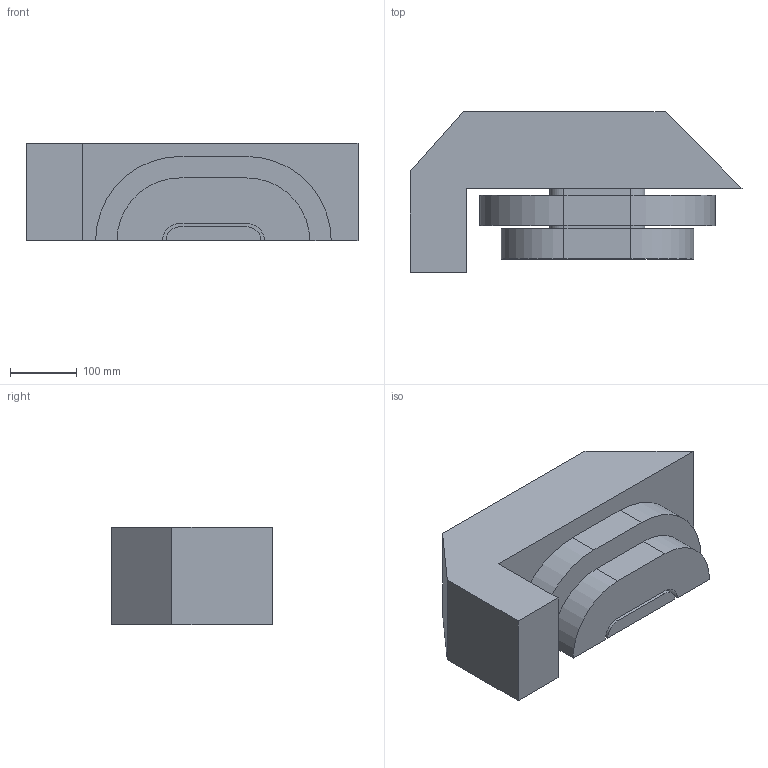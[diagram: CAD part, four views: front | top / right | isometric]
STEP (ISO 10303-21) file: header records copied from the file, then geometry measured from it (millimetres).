
FILE_DESCRIPTION(('STEP AP214'),'1');
FILE_NAME('Superbend_BC_model5_ToH_step.step','2021-06-28T19:36:55',(' '),(' '),'Spatial InterOp 3D',' ',' ');
FILE_SCHEMA(('AUTOMOTIVE_DESIGN { 1 0 10303 214 1 1 1 1 }'));
Length unit declared in the file: millimetre
Products named in the file (1): Pole
Bounding box: 496 x 240 x 146 mm (x, y, z)
Volume: 11070271.8 mm3; surface area: 528975.7 mm2
Topology: 4 solids, 4 shells, 36 faces, 84 edges, 56 vertices
Faces by surface type: plane 26, cylinder 10
Entity records: 1055 total; most frequent: DIRECTION 184, CARTESIAN_POINT 180, ORIENTED_EDGE 168, EDGE_CURVE 84, LINE 64, VECTOR 64, AXIS2_PLACEMENT_3D 60, VERTEX_POINT 56
